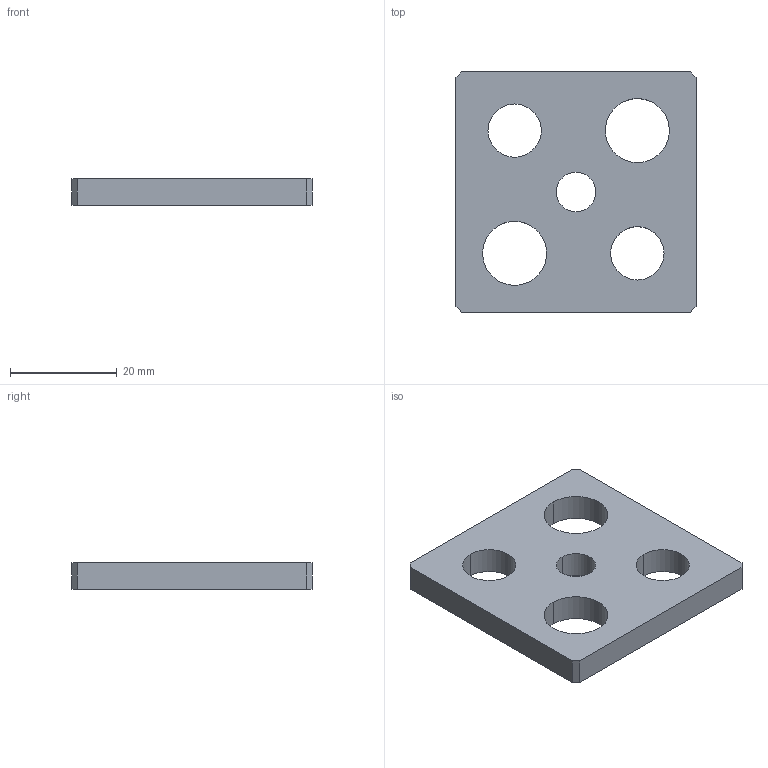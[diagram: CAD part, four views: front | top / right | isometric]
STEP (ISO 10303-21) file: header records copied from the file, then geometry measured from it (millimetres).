
FILE_DESCRIPTION(/* description */ (''),/* implementation_level */ '2;1');
FILE_NAME(/* name */ '3d_mdsp10_04296_r00.stp',/* time_stamp */ '2011-01-10T14:13:54+09:00',/* author */ ('MISUMI'),/* organization */ (''),/* preprocessor_version */ 'ST-DEVELOPER v11',/* originating_system */ 'UGS - NX 5.0',/* authorisation */ '');
FILE_SCHEMA (('CONFIG_CONTROL_DESIGN'));
Length unit declared in the file: millimetre
Products named in the file (1): 3d_mdsp10_04296_r00
Bounding box: 45 x 45 x 5 mm (x, y, z)
Volume: 7983.6 mm3; surface area: 4889.1 mm2
Topology: 1 solids, 1 shells, 20 faces, 54 edges, 36 vertices
Faces by surface type: plane 10, cylinder 10
Entity records: 744 total; most frequent: DIRECTION 116, CARTESIAN_POINT 111, ORIENTED_EDGE 108, EDGE_CURVE 54, AXIS2_PLACEMENT_3D 41, VERTEX_POINT 36, LINE 34, VECTOR 34
